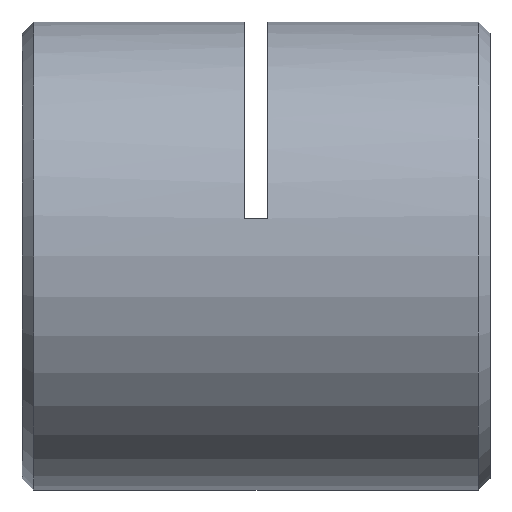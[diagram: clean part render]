
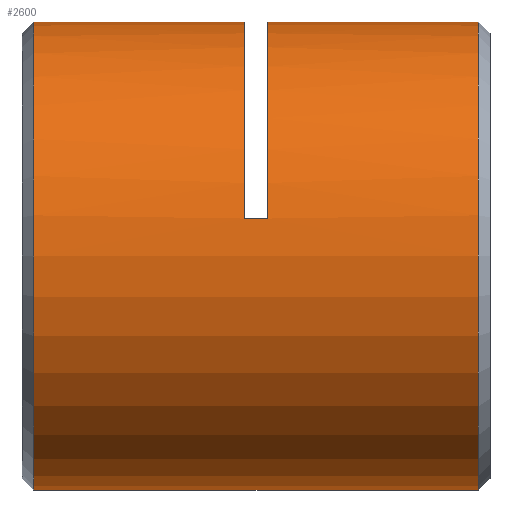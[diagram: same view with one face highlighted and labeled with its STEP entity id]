
A CAD part, left-side view. The second image highlights one B-rep face of the part: STEP entity #2600.
In plain terms, the highlighted cylindrical face has radius 8 mm (diameter 16 mm), a partial arc.
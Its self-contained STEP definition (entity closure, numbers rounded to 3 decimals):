
#112 = LINE ( 'NONE', #2215, #1424 ) ;
#164 = DIRECTION ( 'NONE',  ( 0., 1., 0. ) ) ;
#374 = ORIENTED_EDGE ( 'NONE', *, *, #494, .T. ) ;
#396 = AXIS2_PLACEMENT_3D ( 'NONE', #3782, #1006, #726 ) ;
#416 = DIRECTION ( 'NONE',  ( 0., 0., -1. ) ) ;
#443 = ORIENTED_EDGE ( 'NONE', *, *, #610, .T. ) ;
#465 = VERTEX_POINT ( 'NONE', #553 ) ;
#494 = EDGE_CURVE ( 'NONE', #1518, #3105, #2086, .T. ) ;
#546 = FACE_OUTER_BOUND ( 'NONE', #1149, .T. ) ;
#553 = CARTESIAN_POINT ( 'NONE',  ( 0., 8.65, 8. ) ) ;
#596 = VERTEX_POINT ( 'NONE', #2671 ) ;
#610 = EDGE_CURVE ( 'NONE', #3852, #596, #1360, .T. ) ;
#705 = CARTESIAN_POINT ( 'NONE',  ( 0., 15.85, 0. ) ) ;
#708 = DIRECTION ( 'NONE',  ( 0., 0., 1. ) ) ;
#726 = DIRECTION ( 'NONE',  ( 0., 0., 1. ) ) ;
#752 = EDGE_CURVE ( 'NONE', #1732, #1163, #1554, .T. ) ;
#900 = ORIENTED_EDGE ( 'NONE', *, *, #3341, .T. ) ;
#927 = CARTESIAN_POINT ( 'NONE',  ( 0., 15.85, -8. ) ) ;
#1006 = DIRECTION ( 'NONE',  ( 0., 1., 0. ) ) ;
#1149 = EDGE_LOOP ( 'NONE', ( #2763, #443, #3068, #3763, #374, #900, #1629, #3837 ) ) ;
#1163 = VERTEX_POINT ( 'NONE', #927 ) ;
#1213 = DIRECTION ( 'NONE',  ( 0., 1., 0. ) ) ;
#1247 = EDGE_CURVE ( 'NONE', #465, #1732, #2801, .T. ) ;
#1264 = DIRECTION ( 'NONE',  ( 0., 1., 0. ) ) ;
#1338 = LINE ( 'NONE', #3360, #3932 ) ;
#1343 = AXIS2_PLACEMENT_3D ( 'NONE', #2421, #1213, #3002 ) ;
#1360 = CIRCLE ( 'NONE', #2584, 8. ) ;
#1424 = VECTOR ( 'NONE', #3484, 1000. ) ;
#1485 = CIRCLE ( 'NONE', #396, 8. ) ;
#1518 = VERTEX_POINT ( 'NONE', #3626 ) ;
#1546 = CIRCLE ( 'NONE', #1343, 8. ) ;
#1554 = CIRCLE ( 'NONE', #2454, 8. ) ;
#1629 = ORIENTED_EDGE ( 'NONE', *, *, #1247, .T. ) ;
#1729 = CARTESIAN_POINT ( 'NONE',  ( -7.897, 8.25, 1.28 ) ) ;
#1732 = VERTEX_POINT ( 'NONE', #3091 ) ;
#1842 = DIRECTION ( 'NONE',  ( 0., 0., 1. ) ) ;
#1865 = CARTESIAN_POINT ( 'NONE',  ( 0., 0.25, 8. ) ) ;
#1946 = CARTESIAN_POINT ( 'NONE',  ( 0., 0.25, 0. ) ) ;
#2015 = EDGE_CURVE ( 'NONE', #1518, #2234, #1546, .T. ) ;
#2086 = LINE ( 'NONE', #1729, #2900 ) ;
#2147 = CARTESIAN_POINT ( 'NONE',  ( 0., 7.85, 8. ) ) ;
#2164 = DIRECTION ( 'NONE',  ( 0., 1., 0. ) ) ;
#2170 = CARTESIAN_POINT ( 'NONE',  ( 0., 0.65, 0. ) ) ;
#2215 = CARTESIAN_POINT ( 'NONE',  ( 0., 0.25, -8. ) ) ;
#2234 = VERTEX_POINT ( 'NONE', #2147 ) ;
#2402 = CYLINDRICAL_SURFACE ( 'NONE', #3447, 8. ) ;
#2421 = CARTESIAN_POINT ( 'NONE',  ( 0., 7.85, 0. ) ) ;
#2444 = CARTESIAN_POINT ( 'NONE',  ( -7.897, 8.65, 1.28 ) ) ;
#2454 = AXIS2_PLACEMENT_3D ( 'NONE', #705, #3454, #416 ) ;
#2584 = AXIS2_PLACEMENT_3D ( 'NONE', #2170, #1264, #1842 ) ;
#2600 = ADVANCED_FACE ( 'NONE', ( #546 ), #2402, .T. ) ;
#2634 = DIRECTION ( 'NONE',  ( 0., 1., 0. ) ) ;
#2671 = CARTESIAN_POINT ( 'NONE',  ( 0., 0.65, 8. ) ) ;
#2763 = ORIENTED_EDGE ( 'NONE', *, *, #3285, .F. ) ;
#2801 = LINE ( 'NONE', #1865, #3606 ) ;
#2900 = VECTOR ( 'NONE', #2634, 1000. ) ;
#2927 = CARTESIAN_POINT ( 'NONE',  ( 0., 0.65, -8. ) ) ;
#3002 = DIRECTION ( 'NONE',  ( 0., 0., 1. ) ) ;
#3014 = DIRECTION ( 'NONE',  ( 0., 1., 0. ) ) ;
#3068 = ORIENTED_EDGE ( 'NONE', *, *, #3100, .T. ) ;
#3091 = CARTESIAN_POINT ( 'NONE',  ( 0., 15.85, 8. ) ) ;
#3100 = EDGE_CURVE ( 'NONE', #596, #2234, #1338, .T. ) ;
#3105 = VERTEX_POINT ( 'NONE', #2444 ) ;
#3285 = EDGE_CURVE ( 'NONE', #3852, #1163, #112, .T. ) ;
#3341 = EDGE_CURVE ( 'NONE', #3105, #465, #1485, .T. ) ;
#3360 = CARTESIAN_POINT ( 'NONE',  ( 0., 0.25, 8. ) ) ;
#3447 = AXIS2_PLACEMENT_3D ( 'NONE', #1946, #164, #708 ) ;
#3454 = DIRECTION ( 'NONE',  ( 0., -1., 0. ) ) ;
#3484 = DIRECTION ( 'NONE',  ( 0., 1., 0. ) ) ;
#3606 = VECTOR ( 'NONE', #2164, 1000. ) ;
#3626 = CARTESIAN_POINT ( 'NONE',  ( -7.897, 7.85, 1.28 ) ) ;
#3763 = ORIENTED_EDGE ( 'NONE', *, *, #2015, .F. ) ;
#3782 = CARTESIAN_POINT ( 'NONE',  ( 0., 8.65, 0. ) ) ;
#3837 = ORIENTED_EDGE ( 'NONE', *, *, #752, .T. ) ;
#3852 = VERTEX_POINT ( 'NONE', #2927 ) ;
#3932 = VECTOR ( 'NONE', #3014, 1000. ) ;
